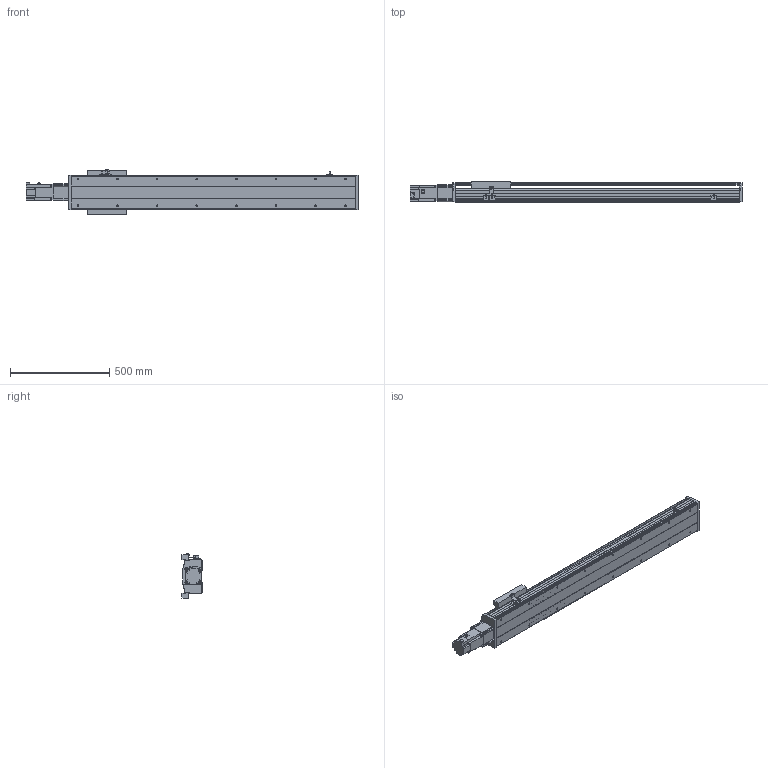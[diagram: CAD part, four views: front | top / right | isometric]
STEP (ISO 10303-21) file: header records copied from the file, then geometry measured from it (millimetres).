
FILE_DESCRIPTION( ( 'STEP AP214' ), '1' );
FILE_NAME( 'x:/temp/worker_27/temp/exporttempdir_6708_413_bDKrY/format_0/PSS200-L10-S1100-BC-T75-C1-N(0).stp', '2022-06-06T02:37:06', ( 'License CC BY-ND 4.0' ), ( 'CADENAS' ), ' ', 'PARTsolutions', ' ' );
FILE_SCHEMA( ( 'AUTOMOTIVE_DESIGN { 1 0 10303 214 1 1 1 1 }' ) );
Length unit declared in the file: millimetre
Products named in the file (8): PSS200-L10-S1100-BC-T75-C1-N(0); _PSS200-S1100-BC-C1-N_body; _PSS200-N_Q; _PSS200-BC-C1-N_sl; _PSS200-N_sensor; _PSS200BC-N_h; _T75-p1; _PSS200-S1100-BC-N_S
Assembly tree (9 placements, depth 2):
  PSS200-L10-S1100-BC-T75-C1-N(0)
    _PSS200-S1100-BC-C1-N_body
    _PSS200-N_Q
    _PSS200-BC-C1-N_sl
    _PSS200-N_sensor  x3
    _PSS200BC-N_h
    _T75-p1
    _PSS200-S1100-BC-N_S
Bounding box: 1676.3 x 101.5 x 223.86 mm (x, y, z)
Volume: 9044732.5 mm3; surface area: 2339585.6 mm2
Topology: 9 solids, 9 shells, 585 faces, 1567 edges, 1040 vertices
Faces by surface type: plane 439, cylinder 122, cone 24
Full cylindrical faces by diameter (mm): 4 x2, 4.5 x4, 6 x11, 6.647 x20, 8 x8, 10 x6, 25 x1, 67 x1, 70 x1
Entity records: 20511 total; most frequent: CARTESIAN_POINT 2856, DIRECTION 2681, ORIENTED_EDGE 2654, EDGE_CURVE 1327, LINE 1051, VECTOR 1051, VERTEX_POINT 926, AXIS2_PLACEMENT_3D 815
